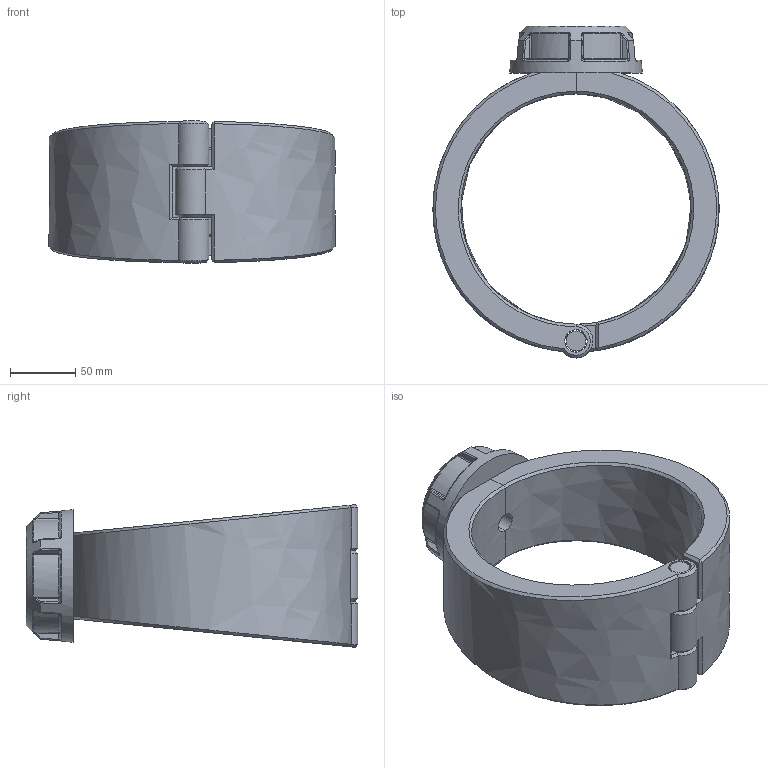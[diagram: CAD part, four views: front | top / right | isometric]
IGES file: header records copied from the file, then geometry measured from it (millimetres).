
Global section: file name: 163000177010; native system: Autodesk Inventor 2019; preprocessor: unknown; author: comp2; date: 20220203.115200; units: millimetre
Bounding box: 220 x 255 x 109.6 mm (x, y, z)
Volume: 1344739.4 mm3; surface area: 178402.9 mm2
Topology: 4 solids, 4 shells, 203 faces, 486 edges, 293 vertices
Faces by surface type: bspline 203
